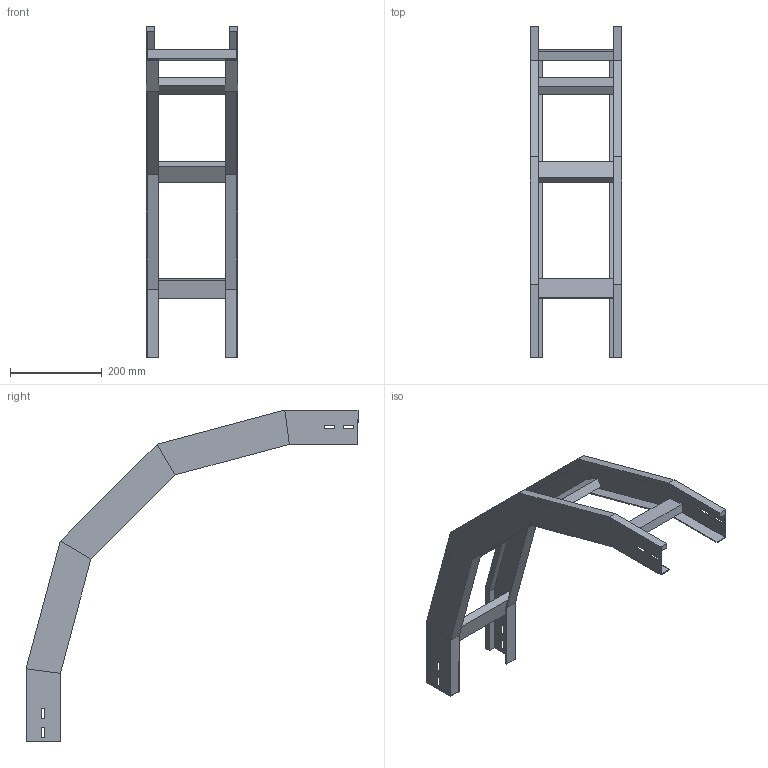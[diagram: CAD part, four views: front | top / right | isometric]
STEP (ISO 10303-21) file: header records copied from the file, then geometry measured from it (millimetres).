
FILE_DESCRIPTION (( 'STEP AP214' ), '1' );
FILE_NAME ('33B5C200.step', '2025-02-21T15:04:37', ( '' ), ( '' ), 'SwSTEP 2.0', 'SolidWorks 2023', '' );
FILE_SCHEMA (( 'AUTOMOTIVE_DESIGN' ));
Length unit declared in the file: millimetre
Products named in the file (3): TRAVERSINO_200; 33B5C200; LONGH.DISCESA_90°_H75_R500
Assembly tree (6 placements, depth 2):
  33B5C200
    LONGH.DISCESA_90°_H75_R500  x2
    TRAVERSINO_200  x4
Bounding box: 200 x 725.35 x 725.35 mm (x, y, z)
Volume: 1537437.3 mm3; surface area: 635400 mm2
Topology: 6 solids, 6 shells, 140 faces, 320 edges, 192 vertices
Faces by surface type: plane 140
Entity records: 1872 total; most frequent: CARTESIAN_POINT 309, ORIENTED_EDGE 296, DIRECTION 294, VECTOR 148, EDGE_CURVE 148, LINE 148, VERTEX_POINT 88, AXIS2_PLACEMENT_3D 73
